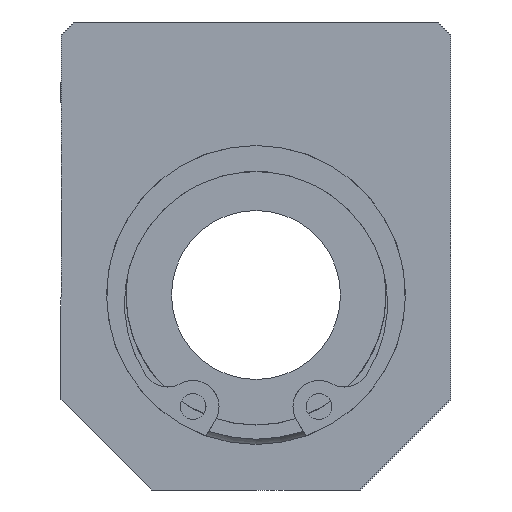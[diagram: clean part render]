
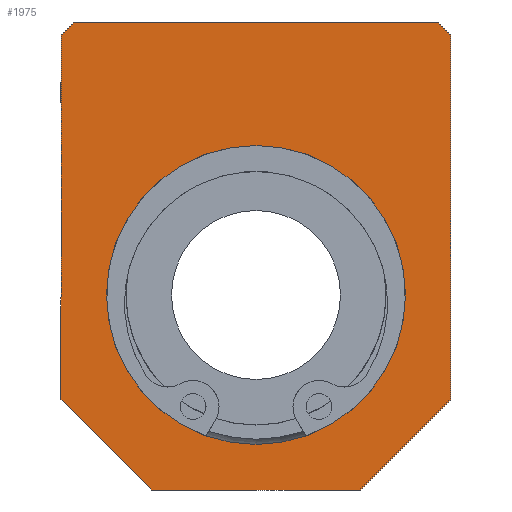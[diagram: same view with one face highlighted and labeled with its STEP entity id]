
A CAD part, left-side view. The second image highlights one B-rep face of the part: STEP entity #1975.
In plain terms, the highlighted planar face has unit normal (-1, 0, 0).
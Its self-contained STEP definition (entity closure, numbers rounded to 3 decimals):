
#1877=CARTESIAN_POINT('',(0.0,-14.,21.));
#1878=VERTEX_POINT('',#1877);
#1885=CARTESIAN_POINT('',(0.0,-15.,20.));
#1886=VERTEX_POINT('',#1885);
#1887=CARTESIAN_POINT('',(0.0,-14.,21.));
#1888=DIRECTION('',(0.0,-0.707,-0.707));
#1889=VECTOR('',#1888,1.414);
#1890=LINE('',#1887,#1889);
#1891=EDGE_CURVE('',#1878,#1886,#1890,.T.);
#1902=CARTESIAN_POINT('',(0.0,0.,3.));
#1903=DIRECTION('',(1.0,0.0,0.0));
#1904=DIRECTION('',(0.0,0.0,-1.0));
#1905=AXIS2_PLACEMENT_3D('',#1902,#1903,#1904);
#1906=PLANE('',#1905);
#1907=ORIENTED_EDGE('',*,*,#1891,.F.);
#1908=CARTESIAN_POINT('',(0.0,14.,21.));
#1909=VERTEX_POINT('',#1908);
#1910=CARTESIAN_POINT('',(0.0,-14.,21.));
#1911=DIRECTION('',(0.0,1.0,0.0));
#1912=VECTOR('',#1911,28.);
#1913=LINE('',#1910,#1912);
#1914=EDGE_CURVE('',#1878,#1909,#1913,.T.);
#1915=ORIENTED_EDGE('',*,*,#1914,.T.);
#1916=CARTESIAN_POINT('',(0.0,15.,20.));
#1917=VERTEX_POINT('',#1916);
#1918=CARTESIAN_POINT('',(0.0,15.,20.));
#1919=DIRECTION('',(0.0,-0.707,0.707));
#1920=VECTOR('',#1919,1.414);
#1921=LINE('',#1918,#1920);
#1922=EDGE_CURVE('',#1917,#1909,#1921,.T.);
#1923=ORIENTED_EDGE('',*,*,#1922,.F.);
#1924=CARTESIAN_POINT('',(0.0,15.,-8.));
#1925=VERTEX_POINT('',#1924);
#1926=CARTESIAN_POINT('',(0.0,15.,20.));
#1927=DIRECTION('',(0.0,0.0,-1.0));
#1928=VECTOR('',#1927,28.);
#1929=LINE('',#1926,#1928);
#1930=EDGE_CURVE('',#1917,#1925,#1929,.T.);
#1931=ORIENTED_EDGE('',*,*,#1930,.T.);
#1932=CARTESIAN_POINT('',(0.0,8.,-15.));
#1933=VERTEX_POINT('',#1932);
#1934=CARTESIAN_POINT('',(0.0,8.,-15.));
#1935=DIRECTION('',(0.0,0.707,0.707));
#1936=VECTOR('',#1935,9.899);
#1937=LINE('',#1934,#1936);
#1938=EDGE_CURVE('',#1933,#1925,#1937,.T.);
#1939=ORIENTED_EDGE('',*,*,#1938,.F.);
#1940=CARTESIAN_POINT('',(0.0,-8.,-15.));
#1941=VERTEX_POINT('',#1940);
#1942=CARTESIAN_POINT('',(0.0,8.,-15.));
#1943=DIRECTION('',(0.0,-1.0,0.0));
#1944=VECTOR('',#1943,16.);
#1945=LINE('',#1942,#1944);
#1946=EDGE_CURVE('',#1933,#1941,#1945,.T.);
#1947=ORIENTED_EDGE('',*,*,#1946,.T.);
#1948=CARTESIAN_POINT('',(0.0,-15.,-8.));
#1949=VERTEX_POINT('',#1948);
#1950=CARTESIAN_POINT('',(0.0,-15.,-8.));
#1951=DIRECTION('',(0.0,0.707,-0.707));
#1952=VECTOR('',#1951,9.899);
#1953=LINE('',#1950,#1952);
#1954=EDGE_CURVE('',#1949,#1941,#1953,.T.);
#1955=ORIENTED_EDGE('',*,*,#1954,.F.);
#1956=CARTESIAN_POINT('',(0.0,-15.,-8.));
#1957=DIRECTION('',(0.0,0.0,1.0));
#1958=VECTOR('',#1957,28.0);
#1959=LINE('',#1956,#1958);
#1960=EDGE_CURVE('',#1949,#1886,#1959,.T.);
#1961=ORIENTED_EDGE('',*,*,#1960,.T.);
#1962=EDGE_LOOP('',(#1907,#1915,#1923,#1931,#1939,#1947,#1955,#1961));
#1963=FACE_OUTER_BOUND('',#1962,.T.);
#1964=CARTESIAN_POINT('',(0.0,11.5,0.));
#1965=VERTEX_POINT('',#1964);
#1966=CARTESIAN_POINT('',(0.0,0.0,0.0));
#1967=DIRECTION('',(1.0,0.0,0.0));
#1968=DIRECTION('',(0.0,-1.0,0.0));
#1969=AXIS2_PLACEMENT_3D('',#1966,#1967,#1968);
#1970=CIRCLE('',#1969,11.5);
#1971=EDGE_CURVE('',#1965,#1965,#1970,.T.);
#1972=ORIENTED_EDGE('',*,*,#1971,.T.);
#1973=EDGE_LOOP('',(#1972));
#1974=FACE_BOUND('',#1973,.T.);
#1975=ADVANCED_FACE('',(#1963,#1974),#1906,.F.);
